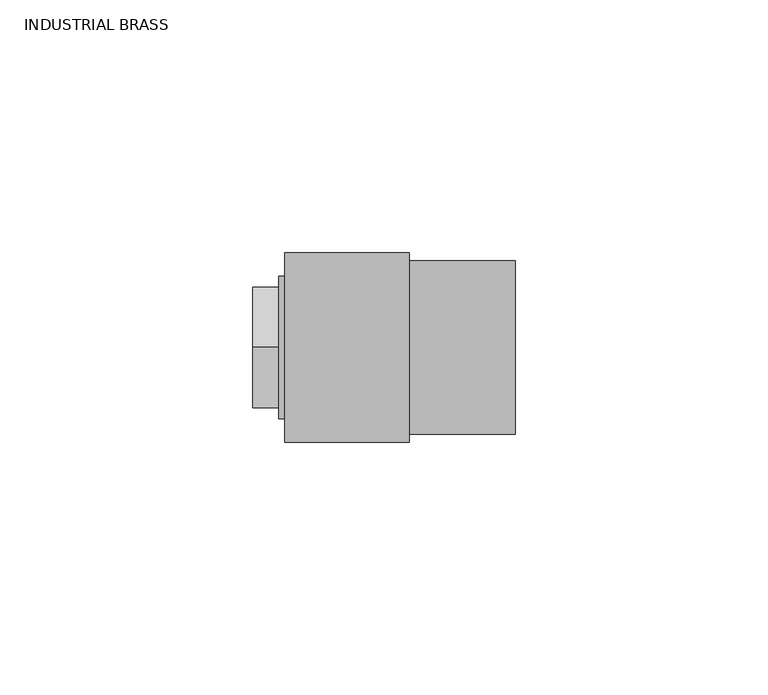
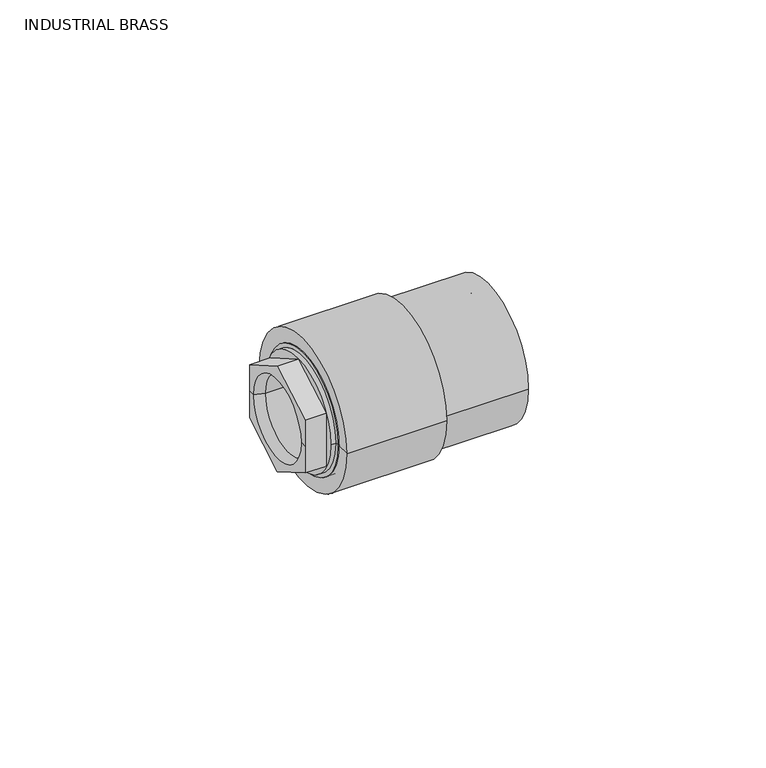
"""IFC4 building model written with IfcOpenShell, lengths in millimetres: valve geometry, Aquatherm - Transition Piece - F HEX : INDUSTRIAL BRASS."""

from ifc_helpers import new_model, si_unit, frame, origin, place, context, project, spatial, polyline, circle_curve, source, transform, mapped, element, save
from ifc_brep_helpers import plane_surface, cylinder_surface, revolved_surface, advanced_brep


def industrial_brass_57dd9382(model_context):
    return source(origin(), model_context, "Body", "AdvancedBrep", [
        advanced_brep(
        [(6.35, -9.525, 0.0), (6.35, 9.525, 0.0), (-3.7703125, 9.525, 0.0), (-3.7703125, -9.525, 0.0), (6.35, -10.31875, 0.0), (6.35, 10.31875, 0.0), (9.525, -10.31875, 0.0), (9.525, 10.31875, 0.0), (9.525, -6.35, 0.0), (9.525, 6.35, 0.0), (12.7, -6.35, 0.0), (12.7, 6.35, 0.0), (12.7, -15.113, 0.0), (12.7, 15.113, 0.0), (0.0, -15.113, 0.0), (0.0, 15.113, 0.0), (-6.35, -10.31875, 0.0), (-6.35, 10.31875, 0.0), (-6.35, 11.938, 0.0), (-6.35, 11.938, -6.8924075), (-6.35, 0.0, -13.784815), (-6.35, -11.938, -6.8924075), (-6.35, -11.938, 0.0), (-6.35, -11.938, 6.8924075), (-6.35, 0.0, 13.784815), (-6.35, 11.938, 6.8924075), (0.0, -14.097, 0.0), (0.0, 14.097, 0.0), (-1.190625, -14.097, 0.0), (-1.190625, 14.097, 0.0), (-1.190625, 0.0, -13.784815), (-1.190625, 11.938, -6.8924075), (-1.190625, 11.938, 6.8924075), (-1.190625, 0.0, 13.784815), (-1.190625, -11.938, 6.8924075), (-1.190625, -11.938, -6.8924075)],
        [
            (0, 1, circle_curve(frame((6.35, 0.0, 0.0), z_axis=(1.0, 0.0, 0.0), x_axis=(0.0, 1.0, 0.0)), 9.525)),
            (1, 2),
            (2, 3, circle_curve(frame((-3.7703125, 0.0, 0.0), z_axis=(-1.0, 0.0, 0.0), x_axis=(0.0, 1.0, 0.0)), 9.525)),
            (3, 0),
            (1, 0, circle_curve(frame((6.35, 0.0, 0.0), z_axis=(1.0, 0.0, 0.0), x_axis=(0.0, 1.0, 0.0)), 9.525)),
            (3, 2, circle_curve(frame((-3.7703125, 0.0, 0.0), z_axis=(-1.0, 0.0, 0.0), x_axis=(0.0, 1.0, 0.0)), 9.525)),
            (0, 4),
            (4, 5, circle_curve(frame((6.35, 0.0, 0.0), z_axis=(1.0, 0.0, 0.0), x_axis=(0.0, 1.0, 0.0)), 10.31875)),
            (5, 1),
            (5, 4, circle_curve(frame((6.35, 0.0, 0.0), z_axis=(1.0, 0.0, 0.0), x_axis=(0.0, 1.0, 0.0)), 10.31875)),
            (4, 6),
            (6, 7, circle_curve(frame((9.525, 0.0, 0.0), z_axis=(1.0, 0.0, 0.0), x_axis=(0.0, 1.0, 0.0)), 10.31875)),
            (7, 5),
            (7, 6, circle_curve(frame((9.525, 0.0, 0.0), z_axis=(1.0, 0.0, 0.0), x_axis=(0.0, 1.0, 0.0)), 10.31875)),
            (6, 8),
            (8, 9, circle_curve(frame((9.525, 0.0, 0.0), z_axis=(1.0, 0.0, 0.0), x_axis=(0.0, 1.0, 0.0)), 6.35)),
            (9, 7),
            (9, 8, circle_curve(frame((9.525, 0.0, 0.0), z_axis=(1.0, 0.0, 0.0), x_axis=(0.0, 1.0, 0.0)), 6.35)),
            (8, 10),
            (10, 11, circle_curve(frame((12.7, 0.0, 0.0), z_axis=(1.0, 0.0, 0.0), x_axis=(0.0, 1.0, 0.0)), 6.35)),
            (11, 9),
            (11, 10, circle_curve(frame((12.7, 0.0, 0.0), z_axis=(1.0, 0.0, 0.0), x_axis=(0.0, 1.0, 0.0)), 6.35)),
            (10, 12),
            (12, 13, circle_curve(frame((12.7, 0.0, 0.0), z_axis=(1.0, 0.0, 0.0), x_axis=(0.0, 1.0, 0.0)), 15.113)),
            (13, 11),
            (13, 12, circle_curve(frame((12.7, 0.0, 0.0), z_axis=(1.0, 0.0, 0.0), x_axis=(0.0, 1.0, 0.0)), 15.113)),
            (12, 14),
            (14, 15, circle_curve(frame((0.0, 0.0, 0.0), z_axis=(1.0, 0.0, 0.0), x_axis=(0.0, 1.0, 0.0)), 15.113)),
            (15, 13),
            (15, 14, circle_curve(frame((0.0, 0.0, 0.0), z_axis=(1.0, 0.0, 0.0), x_axis=(0.0, 1.0, 0.0)), 15.113)),
            (16, 17, circle_curve(frame((-6.35, 0.0, 0.0), z_axis=(1.0, 0.0, 0.0), x_axis=(0.0, 1.0, 0.0)), 10.31875)),
            (17, 18),
            (18, 19),
            (19, 20),
            (20, 21),
            (21, 22),
            (22, 16),
            (17, 16, circle_curve(frame((-6.35, 0.0, 0.0), z_axis=(1.0, 0.0, 0.0), x_axis=(0.0, 1.0, 0.0)), 10.31875)),
            (22, 23),
            (23, 24),
            (24, 25),
            (25, 18),
            (2, 17),
            (16, 3),
            (14, 26),
            (26, 27, circle_curve(frame((0.0, 0.0, 0.0), z_axis=(1.0, 0.0, 0.0), x_axis=(0.0, 1.0, 0.0)), 14.097)),
            (27, 15),
            (27, 26, circle_curve(frame((0.0, 0.0, 0.0), z_axis=(1.0, 0.0, 0.0), x_axis=(0.0, 1.0, 0.0)), 14.097)),
            (26, 28),
            (28, 29, circle_curve(frame((-1.190625, 0.0, 0.0), z_axis=(1.0, 0.0, 0.0), x_axis=(0.0, 1.0, 0.0)), 14.097)),
            (29, 27),
            (29, 28, circle_curve(frame((-1.190625, 0.0, 0.0), z_axis=(1.0, 0.0, 0.0), x_axis=(0.0, 1.0, 0.0)), 14.097)),
            (30, 31),
            (31, 32),
            (32, 33),
            (33, 34),
            (34, 35),
            (35, 30),
            (35, 21),
            (20, 30),
            (34, 23),
            (33, 24),
            (32, 25),
            (31, 19),
        ],
        [
            revolved_surface(polyline([(-3.7703125, 9.525, 0.0), (6.35, 9.525, 0.0)]), (-8.1832251, 0.0, 0.0), (-1.0, 0.0, 0.0)),
            plane_surface(frame((6.35, 0.0, 0.0), z_axis=(1.0, 0.0, 0.0), x_axis=(0.0, 1.0, 0.0))),
            revolved_surface(polyline([(6.35, 10.31875, 0.0), (9.525, 10.31875, 0.0)]), (-8.1832251, 0.0, 0.0), (-1.0, 0.0, 0.0)),
            plane_surface(frame((9.525, 0.0, 0.0), z_axis=(-1.0, 0.0, 0.0), x_axis=(0.0, 1.0, 0.0))),
            revolved_surface(polyline([(9.525, 6.35, 0.0), (12.699999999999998, 6.35, 0.0)]), (-8.1832251, 0.0, 0.0), (-1.0, 0.0, 0.0)),
            plane_surface(frame((12.7, 0.0, 0.0), z_axis=(1.0, 0.0, 0.0), x_axis=(0.0, 1.0, 0.0))),
            cylinder_surface(frame((-8.1832251, 0.0, 0.0), z_axis=(-1.0, 0.0, 0.0), x_axis=(0.0, 1.0, 0.0)), 15.113),
            plane_surface(frame((-6.35, 0.0, 0.0), z_axis=(-1.0, 0.0, 0.0), x_axis=(0.0, 1.0, 0.0))),
            revolved_surface(polyline([(-6.35, 10.31875, 0.0), (-3.7703125, 9.525, 0.0)]), (-8.1832251, 0.0, 0.0), (-1.0, 0.0, 0.0)),
            plane_surface(frame((0.0, 0.0, 0.0), z_axis=(-1.0, 0.0, 0.0), x_axis=(0.0, 1.0, 0.0))),
            cylinder_surface(frame((-8.1832251, 0.0, 0.0), z_axis=(-1.0, 0.0, 0.0), x_axis=(0.0, 1.0, 0.0)), 14.097),
            plane_surface(frame((-1.190625, -11.938, -6.8924075), z_axis=(-1.0, 0.0, 0.0), x_axis=(0.0, -0.8660254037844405, 0.49999999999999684))),
            plane_surface(frame((-1.190625, 0.0, -13.784815), z_axis=(0.0, -0.49999999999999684, -0.8660254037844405), x_axis=(-1.0, 0.0, 0.0))),
            plane_surface(frame((-1.190625, -11.938, -6.8924075), z_axis=(0.0, -1.0, 0.0), x_axis=(-1.0, 0.0, 0.0))),
            plane_surface(frame((-1.190625, -11.938, 6.8924075), z_axis=(0.0, -0.5000000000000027, 0.8660254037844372), x_axis=(-1.0, 0.0, 0.0))),
            plane_surface(frame((-1.190625, 0.0, 13.784815), z_axis=(0.0, 0.499999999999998, 0.8660254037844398), x_axis=(-1.0, 0.0, 0.0))),
            plane_surface(frame((-1.190625, 11.938, 6.8924075), z_axis=(0.0, 1.0, 0.0), x_axis=(-1.0, 0.0, 0.0))),
            plane_surface(frame((-1.190625, 11.938, -6.8924075), z_axis=(0.0, 0.5000000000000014, -0.8660254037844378), x_axis=(-1.0, 0.0, 0.0))),
        ],
        [
            (0, [[1, 2, 3, 4]]),
            (0, [[-2, 5, -4, 6]]),
            (1, [[-1, 7, 8, 9]]),
            (1, [[-5, -9, 10, -7]]),
            (2, [[-8, 11, 12, 13]]),
            (2, [[-10, -13, 14, -11]]),
            (3, [[-12, 15, 16, 17]]),
            (3, [[-14, -17, 18, -15]]),
            (4, [[-16, 19, 20, 21]]),
            (4, [[-18, -21, 22, -19]]),
            (5, [[-20, 23, 24, 25]]),
            (5, [[-22, -25, 26, -23]]),
            (6, [[-24, 27, 28, 29]]),
            (6, [[-26, -29, 30, -27]]),
            (7, [[31, 32, 33, 34, 35, 36, 37]]),
            (7, [[38, -37, 39, 40, 41, 42, -32]]),
            (8, [[-3, 43, -31, 44]]),
            (8, [[-6, -44, -38, -43]]),
            (9, [[-28, 45, 46, 47]]),
            (9, [[-30, -47, 48, -45]]),
            (10, [[-46, 49, 50, 51]]),
            (10, [[-48, -51, 52, -49]]),
            (11, [[-50, -52], [53, 54, 55, 56, 57, 58]]),
            (12, [[-58, 59, -35, 60]]),
            (13, [[-57, 61, -39, -36, -59]]),
            (14, [[-56, 62, -40, -61]]),
            (15, [[-55, 63, -41, -62]]),
            (16, [[-54, 64, -33, -42, -63]]),
            (17, [[-53, -60, -34, -64]]),
        ],
    ),
        advanced_brep(
        [(0.0, -18.796, 0.0), (0.0, 18.796, 0.0), (24.638, 18.796, 0.0), (24.638, -18.796, 0.0), (0.0, -15.113, 0.0), (0.0, 15.113, 0.0), (12.7, -15.113, 0.0), (12.7, 15.113, 0.0), (12.7, -6.35, 0.0), (12.7, 6.35, 0.0), (29.718, -6.35, 0.0), (29.718, 6.35, 0.0), (29.718, -12.446, 0.0), (29.718, 12.446, 0.0), (45.72, -12.446, 0.0), (45.72, 12.446, 0.0), (45.72, -17.2085, 0.0), (45.72, 17.2085, 0.0), (24.638, -17.2085, 0.0), (24.638, 17.2085, 0.0)],
        [
            (0, 1, circle_curve(frame((0.0, 0.0, 0.0), z_axis=(1.0, 0.0, 0.0), x_axis=(0.0, 1.0, 0.0)), 18.796)),
            (1, 2),
            (2, 3, circle_curve(frame((24.638, 0.0, 0.0), z_axis=(-1.0, 0.0, 0.0), x_axis=(0.0, 1.0, 0.0)), 18.796)),
            (3, 0),
            (1, 0, circle_curve(frame((0.0, 0.0, 0.0), z_axis=(1.0, 0.0, 0.0), x_axis=(0.0, 1.0, 0.0)), 18.796)),
            (3, 2, circle_curve(frame((24.638, 0.0, 0.0), z_axis=(-1.0, 0.0, 0.0), x_axis=(0.0, 1.0, 0.0)), 18.796)),
            (4, 5, circle_curve(frame((0.0, 0.0, 0.0), z_axis=(1.0, 0.0, 0.0), x_axis=(0.0, 1.0, 0.0)), 15.113)),
            (5, 1),
            (0, 4),
            (5, 4, circle_curve(frame((0.0, 0.0, 0.0), z_axis=(1.0, 0.0, 0.0), x_axis=(0.0, 1.0, 0.0)), 15.113)),
            (6, 7, circle_curve(frame((12.7, 0.0, 0.0), z_axis=(1.0, 0.0, 0.0), x_axis=(0.0, 1.0, 0.0)), 15.113)),
            (7, 5),
            (4, 6),
            (7, 6, circle_curve(frame((12.7, 0.0, 0.0), z_axis=(1.0, 0.0, 0.0), x_axis=(0.0, 1.0, 0.0)), 15.113)),
            (8, 9, circle_curve(frame((12.7, 0.0, 0.0), z_axis=(1.0, 0.0, 0.0), x_axis=(0.0, 1.0, 0.0)), 6.35)),
            (9, 7),
            (6, 8),
            (9, 8, circle_curve(frame((12.7, 0.0, 0.0), z_axis=(1.0, 0.0, 0.0), x_axis=(0.0, 1.0, 0.0)), 6.35)),
            (10, 11, circle_curve(frame((29.718, 0.0, 0.0), z_axis=(1.0, 0.0, 0.0), x_axis=(0.0, 1.0, 0.0)), 6.35)),
            (11, 9),
            (8, 10),
            (11, 10, circle_curve(frame((29.718, 0.0, 0.0), z_axis=(1.0, 0.0, 0.0), x_axis=(0.0, 1.0, 0.0)), 6.35)),
            (12, 13, circle_curve(frame((29.718, 0.0, 0.0), z_axis=(1.0, 0.0, 0.0), x_axis=(0.0, 1.0, 0.0)), 12.446)),
            (13, 11),
            (10, 12),
            (13, 12, circle_curve(frame((29.718, 0.0, 0.0), z_axis=(1.0, 0.0, 0.0), x_axis=(0.0, 1.0, 0.0)), 12.446)),
            (14, 15, circle_curve(frame((45.72, 0.0, 0.0), z_axis=(1.0, 0.0, 0.0), x_axis=(0.0, 1.0, 0.0)), 12.446)),
            (15, 13),
            (12, 14),
            (15, 14, circle_curve(frame((45.72, 0.0, 0.0), z_axis=(1.0, 0.0, 0.0), x_axis=(0.0, 1.0, 0.0)), 12.446)),
            (16, 17, circle_curve(frame((45.72, 0.0, 0.0), z_axis=(1.0, 0.0, 0.0), x_axis=(0.0, 1.0, 0.0)), 17.2085)),
            (17, 15),
            (14, 16),
            (17, 16, circle_curve(frame((45.72, 0.0, 0.0), z_axis=(1.0, 0.0, 0.0), x_axis=(0.0, 1.0, 0.0)), 17.2085)),
            (18, 19, circle_curve(frame((24.638, 0.0, 0.0), z_axis=(1.0, 0.0, 0.0), x_axis=(0.0, 1.0, 0.0)), 17.2085)),
            (19, 17),
            (16, 18),
            (19, 18, circle_curve(frame((24.638, 0.0, 0.0), z_axis=(1.0, 0.0, 0.0), x_axis=(0.0, 1.0, 0.0)), 17.2085)),
            (2, 19),
            (18, 3),
        ],
        [
            cylinder_surface(frame((-14.4531162, 0.0, 0.0), z_axis=(-1.0, 0.0, 0.0), x_axis=(0.0, 1.0, 0.0)), 18.796),
            plane_surface(frame((0.0, 0.0, 0.0), z_axis=(-1.0, 0.0, 0.0), x_axis=(0.0, 1.0, 0.0))),
            revolved_surface(polyline([(0.0, 15.113, 0.0), (12.7, 15.113, 0.0)]), (-14.4531162, 0.0, 0.0), (-1.0, 0.0, 0.0)),
            plane_surface(frame((12.7, 0.0, 0.0), z_axis=(-1.0, 0.0, 0.0), x_axis=(0.0, 1.0, 0.0))),
            revolved_surface(polyline([(12.7, 6.35, 0.0), (29.718, 6.35, 0.0)]), (-14.4531162, 0.0, 0.0), (-1.0, 0.0, 0.0)),
            plane_surface(frame((29.718, 0.0, 0.0), z_axis=(1.0, 0.0, 0.0), x_axis=(0.0, 1.0, 0.0))),
            revolved_surface(polyline([(29.718, 12.446, 0.0), (45.72, 12.446, 0.0)]), (-14.4531162, 0.0, 0.0), (-1.0, 0.0, 0.0)),
            plane_surface(frame((45.72, 0.0, 0.0), z_axis=(1.0, 0.0, 0.0), x_axis=(0.0, 1.0, 0.0))),
            cylinder_surface(frame((-14.4531162, 0.0, 0.0), z_axis=(-1.0, 0.0, 0.0), x_axis=(0.0, 1.0, 0.0)), 17.2085),
            plane_surface(frame((24.638, 0.0, 0.0), z_axis=(1.0, 0.0, 0.0), x_axis=(0.0, 1.0, 0.0))),
        ],
        [
            (0, [[1, 2, 3, 4]]),
            (0, [[5, -4, 6, -2]]),
            (1, [[7, 8, -1, 9]]),
            (1, [[10, -9, -5, -8]]),
            (2, [[11, 12, -7, 13]]),
            (2, [[14, -13, -10, -12]]),
            (3, [[15, 16, -11, 17]]),
            (3, [[18, -17, -14, -16]]),
            (4, [[19, 20, -15, 21]]),
            (4, [[22, -21, -18, -20]]),
            (5, [[23, 24, -19, 25]]),
            (5, [[26, -25, -22, -24]]),
            (6, [[27, 28, -23, 29]]),
            (6, [[30, -29, -26, -28]]),
            (7, [[31, 32, -27, 33]]),
            (7, [[34, -33, -30, -32]]),
            (8, [[35, 36, -31, 37]]),
            (8, [[38, -37, -34, -36]]),
            (9, [[-3, 39, -35, 40]]),
            (9, [[-6, -40, -38, -39]]),
        ],
    ),
    ])


if __name__ == "__main__":
    model = new_model("IFC4")
    model_context = context("Model", 3, world=origin())
    ifc_project = project(units=[si_unit("LENGTHUNIT", "METRE", prefix="MILLI")], contexts=[model_context])
    site = spatial("IfcSite", under=ifc_project)
    building = spatial("IfcBuilding", under=site)
    placement = place(None, origin())
    industrial_brass_shape = industrial_brass_57dd9382(model_context)
    element("IfcValve", 1, ObjectType="Aquatherm - Transition Piece - F HEX : INDUSTRIAL BRASS", at=placement, inside=building, context=model_context, shape_type="MappedRepresentation", body=[
        mapped(industrial_brass_shape, transform((0.0, 0.0, 0.0), x_axis=(1.0, 0.0, 0.0), y_axis=(0.0, 1.0, 0.0), z_axis=(0.0, 0.0, 1.0))),
    ])
    save(model, "model.ifc")
